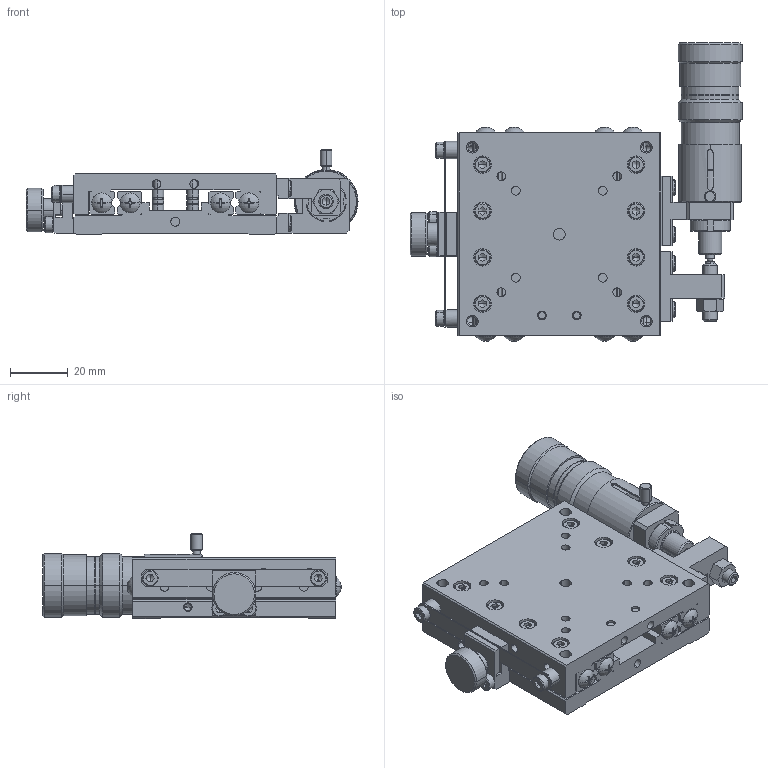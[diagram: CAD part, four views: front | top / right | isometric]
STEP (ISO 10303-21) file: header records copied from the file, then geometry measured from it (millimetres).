
FILE_DESCRIPTION (( 'STEP AP214' ), '1' );
FILE_NAME ('XM07A-S3-CL.STEP', '2009-05-11T05:39:28', ( ' ' ), ( ' ' ), 'SwSTEP 2.0', 'SolidWorks 2008', '' );
FILE_SCHEMA (( 'AUTOMOTIVE_DESIGN' ));
Length unit declared in the file: millimetre
Products named in the file (3): 001490-1023(3D)-9; XM07A-S3-CL; 001490-1011(3D)-9
Assembly tree (2 placements, depth 2):
  XM07A-S3-CL
    001490-1011(3D)-9
    001490-1023(3D)-9
Bounding box: 114.5 x 102.87 x 29.5 mm (x, y, z)
Volume: 109741.7 mm3; surface area: 52828.6 mm2
Topology: 2 solids, 44 shells, 1908 faces, 4558 edges, 2736 vertices
Faces by surface type: plane 891, cylinder 582, cone 402, sphere 17, torus 16
Entity records: 55485 total; most frequent: CARTESIAN_POINT 10508, DIRECTION 9955, ORIENTED_EDGE 8928, EDGE_CURVE 4464, AXIS2_PLACEMENT_3D 3794, VERTEX_POINT 2735, VECTOR 2367, LINE 2367
